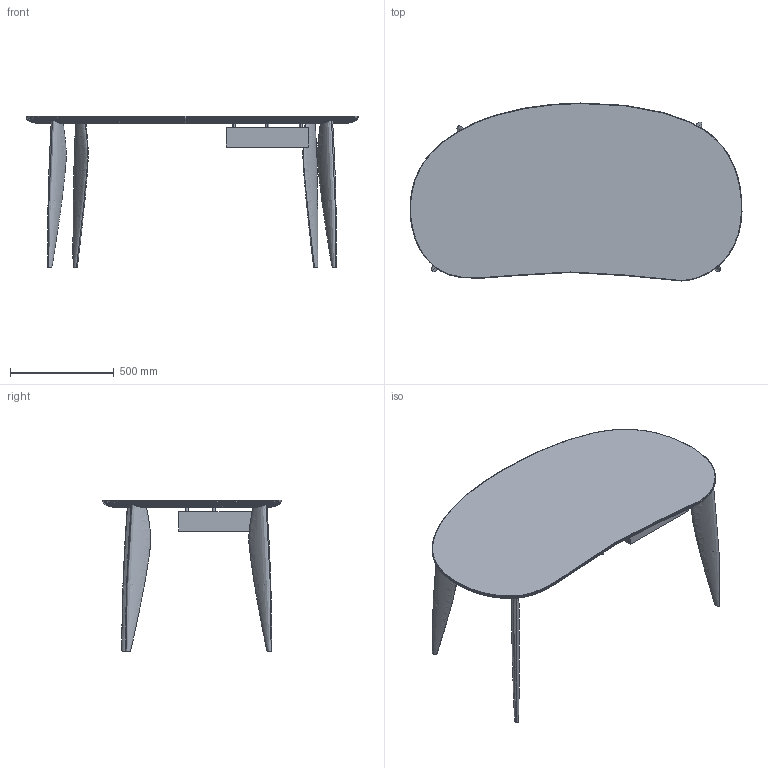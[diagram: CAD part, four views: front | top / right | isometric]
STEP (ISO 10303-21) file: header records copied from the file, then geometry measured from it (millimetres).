
FILE_DESCRIPTION(/* description */ (''),/* implementation_level */ '2;1');
FILE_NAME(/* name */ 'Feve table 160x85_3D',/* time_stamp */ '2025-07-23T13:50:37+02:00',/* author */ (''),/* organization */ (''),/* preprocessor_version */ 'ST-DEVELOPER v16.5',/* originating_system */ 'Rhino 7.38',/* authorisation */ '');
FILE_SCHEMA (('CONFIG_CONTROL_DESIGN'));
Length unit declared in the file: millimetre
Products named in the file (1): Document
Bounding box: 1596.66 x 856.14 x 730 mm (x, y, z)
Volume: 51058598.3 mm3; surface area: 4161794.8 mm2
Topology: 17 solids, 17 shells, 286 faces, 647 edges, 402 vertices
Faces by surface type: bspline 188, plane 65, cylinder 33
Entity records: 47570 total; most frequent: CARTESIAN_POINT 43244, ORIENTED_EDGE 1278, EDGE_CURVE 639, B_SPLINE_CURVE_WITH_KNOTS 533, VERTEX_POINT 394, EDGE_LOOP 293, ADVANCED_FACE 286, FACE_OUTER_BOUND 286
